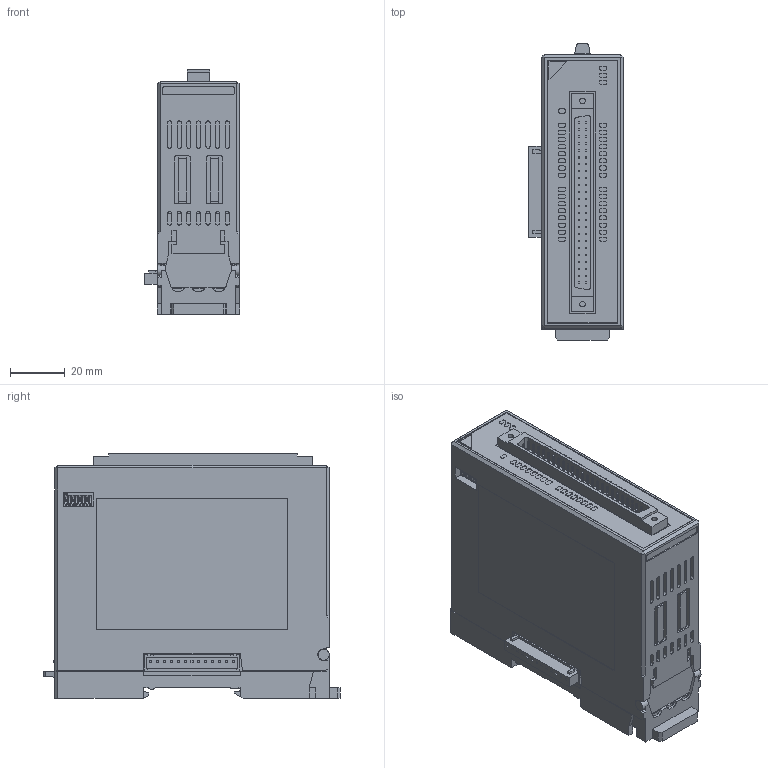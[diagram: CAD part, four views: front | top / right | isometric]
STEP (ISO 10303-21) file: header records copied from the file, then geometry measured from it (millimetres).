
FILE_DESCRIPTION (( 'STEP AP203' ), '1' );
FILE_NAME ('QDM2-Y_260721.STEP', '2026-07-21T06:38:37', ( '' ), ( '' ), 'SwSTEP 2.0', 'SolidWorks 2025', '' );
FILE_SCHEMA (( 'CONFIG_CONTROL_DESIGN' ));
Length unit declared in the file: millimetre
Products named in the file (1): QDM2-Y_260721
Bounding box: 34.7 x 108 x 89.35 mm (x, y, z)
Volume: 245001.3 mm3; surface area: 35973.9 mm2
Topology: 1 solids, 1 shells, 1797 faces, 4688 edges, 3085 vertices
Faces by surface type: plane 1385, cylinder 266, bspline 144, cone 2
Entity records: 55127 total; most frequent: CARTESIAN_POINT 11893, ORIENTED_EDGE 9376, DIRECTION 7990, EDGE_CURVE 4688, LINE 3818, VECTOR 3818, VERTEX_POINT 3085, AXIS2_PLACEMENT_3D 2086
